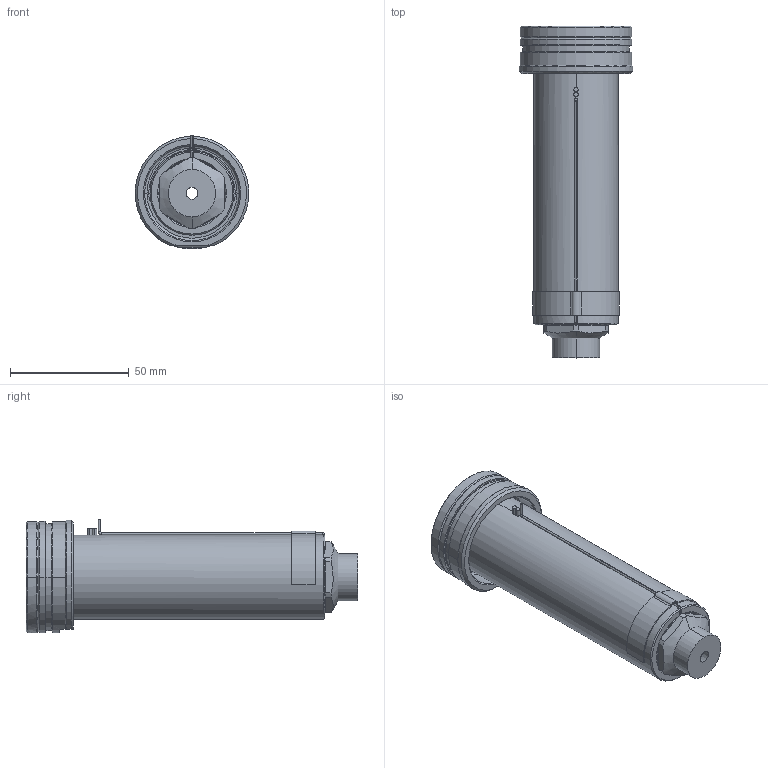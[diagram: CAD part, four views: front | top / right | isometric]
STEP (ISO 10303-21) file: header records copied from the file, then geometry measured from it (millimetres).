
FILE_DESCRIPTION((''),'2;1');
FILE_NAME('EO16_VG-FB_WR_120_SW','2024-02-19T13:45:38',('sundharh'),(''),'CREO PARAMETRIC BY PTC INC, 2023154','CREO PARAMETRIC BY PTC INC, 2023154','');
FILE_SCHEMA(('CONFIG_CONTROL_DESIGN'));
Length unit declared in the file: millimetre
Products named in the file (1): EO16_VG-FB_WR_120_SW
Bounding box: 47.97 x 140 x 48 mm (x, y, z)
Volume: 116249.2 mm3; surface area: 31260.1 mm2
Topology: 1 solids, 1 shells, 197 faces, 474 edges, 286 vertices
Faces by surface type: cylinder 72, plane 47, cone 39, torus 24, bspline 13, sphere 2
Entity records: 6609 total; most frequent: CARTESIAN_POINT 1929, DIRECTION 1054, ORIENTED_EDGE 936, EDGE_CURVE 468, AXIS2_PLACEMENT_3D 442, VERTEX_POINT 286, CIRCLE 258, EDGE_LOOP 214
